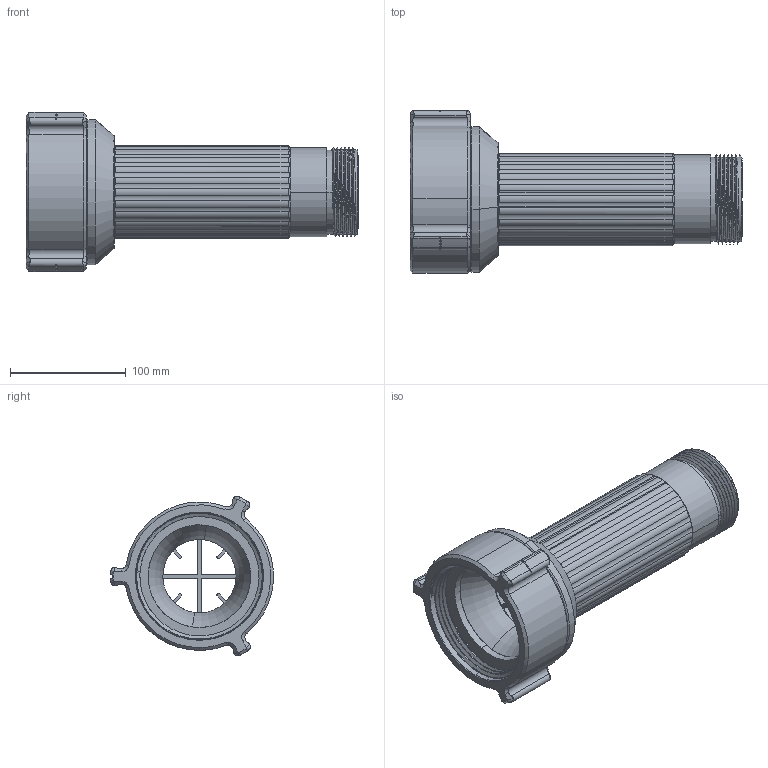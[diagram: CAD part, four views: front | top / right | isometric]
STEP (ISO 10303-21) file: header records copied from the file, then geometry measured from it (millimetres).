
FILE_DESCRIPTION (( 'STEP AP203' ), '1' );
FILE_NAME ('XF-SS10-NN.step', '2014-05-13T19:43:28', ( 'user' ), ( '' ), 'SwSTEP 2.0', 'SolidWorks 2012', '' );
FILE_SCHEMA (( 'CONFIG_CONTROL_DESIGN' ));
Length unit declared in the file: inch
Products named in the file (1): XF-SS10-NN
Bounding box: 287.17 x 140.77 x 138 mm (x, y, z)
Surface area: 247254.2 mm2 (no closed solid volume)
Topology: 0 solids, 6 shells, 300 faces, 986 edges, 659 vertices
Faces by surface type: cylinder 178, cone 60, plane 43, torus 14, bspline 5
Entity records: 16459 total; most frequent: CARTESIAN_POINT 8308, ORIENTED_EDGE 1836, DIRECTION 1510, EDGE_CURVE 986, VERTEX_POINT 659, AXIS2_PLACEMENT_3D 589, LINE 332, VECTOR 332
